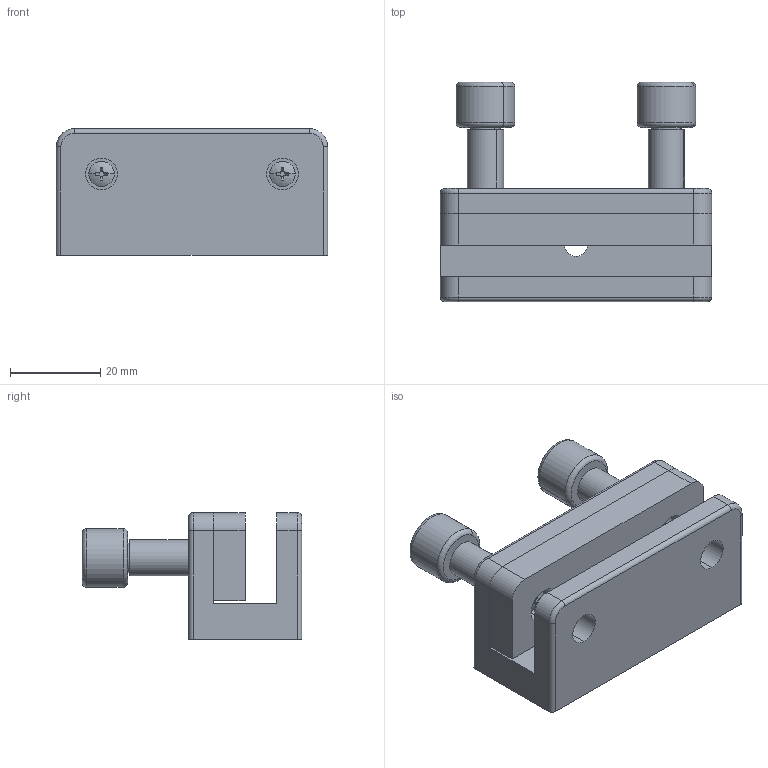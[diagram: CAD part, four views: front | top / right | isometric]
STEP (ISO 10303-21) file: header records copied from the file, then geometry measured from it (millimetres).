
FILE_DESCRIPTION (( 'STEP AP203' ), '1' );
FILE_NAME ('¸É°å¼Ü HGMMT207.STEP', '2021-04-16T08:52:37', ( '' ), ( '' ), 'SwSTEP 2.0', 'SolidWorks 2020', '' );
FILE_SCHEMA (( 'CONFIG_CONTROL_DESIGN' ));
Length unit declared in the file: millimetre
Products named in the file (5): 補啣殤芢啣HGMMT207-2; cross recessed pan head screws gb_GB_CROSS_SCREWS_TYPE1 M3X8-8  H type-N; 補啣殤價釱HGMMT207-1; 補啣殤 HGMMT207; 補啣殤芢裝HGMMT207-3
Assembly tree (6 placements, depth 2):
  補啣殤 HGMMT207
    補啣殤價釱HGMMT207-1
    補啣殤芢啣HGMMT207-2
    補啣殤芢裝HGMMT207-3  x2
    cross recessed pan head screws gb_GB_CROSS_SCREWS_TYPE1 M3X8-8  H type-N  x2
Bounding box: 60 x 48.5 x 28 mm (x, y, z)
Volume: 36232.4 mm3; surface area: 16117.4 mm2
Topology: 6 solids, 6 shells, 144 faces, 348 edges, 222 vertices
Faces by surface type: cylinder 64, plane 56, torus 12, cone 8, sphere 4
Entity records: 3569 total; most frequent: DIRECTION 568, CARTESIAN_POINT 547, ORIENTED_EDGE 480, EDGE_CURVE 240, AXIS2_PLACEMENT_3D 232, VERTEX_POINT 155, CIRCLE 124, EDGE_LOOP 121
